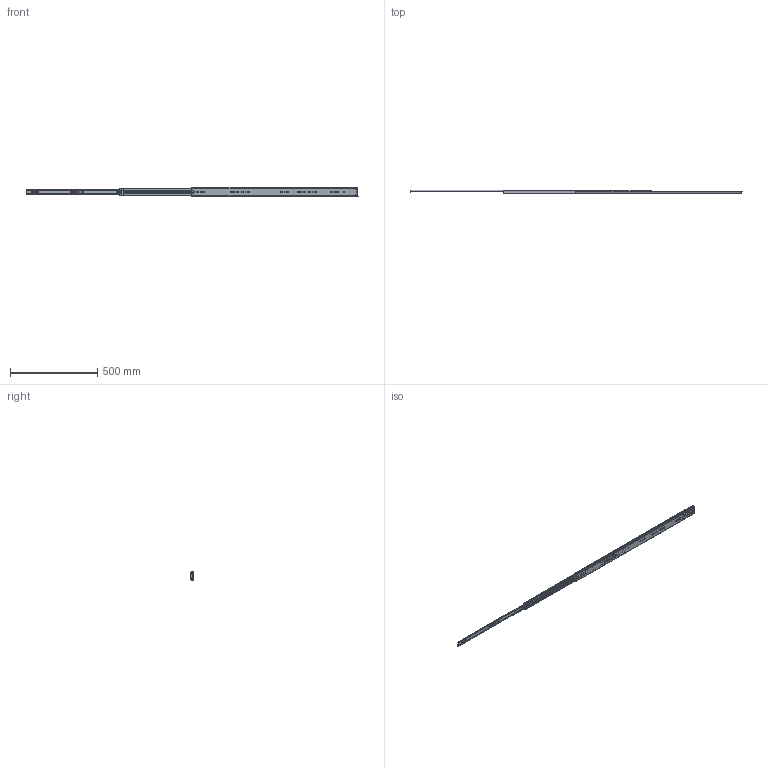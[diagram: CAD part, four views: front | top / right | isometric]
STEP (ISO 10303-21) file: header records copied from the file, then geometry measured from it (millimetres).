
FILE_DESCRIPTION((''),'2;1');
FILE_NAME('1053-HD-950_ASM','2023-11-18T',('jishu015'),(''),'PRO/ENGINEER BY PARAMETRIC TECHNOLOGY CORPORATION, 2010280','PRO/ENGINEER BY PARAMETRIC TECHNOLOGY CORPORATION, 2010280','');
FILE_SCHEMA(('CONFIG_CONTROL_DESIGN'));
Products named in the file (25): 1053-02-18WAIKE11__; MANIFOLD_SOLID_BREP_512__; MANIFOLD_SOLID_BREP_5212__; MANIFOLD_SOLID_BREP_5312__; ADMI29141B9BC7PD_ASM11_ASM; ASM0001_____________ASM; 53_ASM_____________ASM; 1053-02-18XTPJG-DAZHUJIA2____; 1053-02-18XTPJG-5-6GANZHU12____; ZHONGGUIJIAO-11______________; 1053-02-18XTPJG-DAZHUJIA12_____ASM; 1053-02-18WAIKE11___ASM; 1053-02-18ZHONGGUI11_____; 53ZHIDIJIAO12__; 3X6-MAODING____________; 1053-02-18ZHONGGUI11______ASM; 1053XIAOZHUJIA-14GE11______; 53-5-6GANZHU12__; 1053XIAOZHUJIA-14GE11_______ASM; 1053-02-18NEIGUI12___; 53BACHA12__; XIAOMAODING____________; 3X4MAODING____________; 1053-02-18NEIGUI12____ASM; 1053-HD-950_ASM
Assembly tree (151 placements, depth 6):
  1053-HD-950_ASM
    1053-02-18WAIKE11___ASM
      1053-02-18WAIKE11__
      53_ASM_____________ASM
        ASM0001_____________ASM
          ADMI29141B9BC7PD_ASM11_ASM
            MANIFOLD_SOLID_BREP_512__
            MANIFOLD_SOLID_BREP_5212__
            MANIFOLD_SOLID_BREP_5312__
      1053-02-18XTPJG-DAZHUJIA12_____ASM
        1053-02-18XTPJG-DAZHUJIA2____
        1053-02-18XTPJG-5-6GANZHU12____  x64
        ZHONGGUIJIAO-11______________  x2
    1053-02-18ZHONGGUI11______ASM
      1053-02-18ZHONGGUI11_____
      53ZHIDIJIAO12__
      3X6-MAODING____________
    1053XIAOZHUJIA-14GE11_______ASM
      1053XIAOZHUJIA-14GE11______
      53-5-6GANZHU12__  x64
    1053-02-18NEIGUI12____ASM
      1053-02-18NEIGUI12___
      53BACHA12__
      XIAOMAODING____________
      3X4MAODING____________
Bounding box: 1902.1 x 19.75 x 53 mm (x, y, z)
Volume: 362791.2 mm3; surface area: 449822.4 mm2
Topology: 143 solids, 143 shells, 4870 faces, 13601 edges, 8480 vertices
Faces by surface type: plane 2125, cylinder 1988, sphere 286, bspline 262, cone 147, torus 60, extrusion 2
Entity records: 169880 total; most frequent: CARTESIAN_POINT 51797, ORIENTED_EDGE 25188, DIRECTION 23947, EDGE_CURVE 12594, AXIS2_PLACEMENT_3D 8177, VERTEX_POINT 8102, VECTOR 7593, LINE 7591
